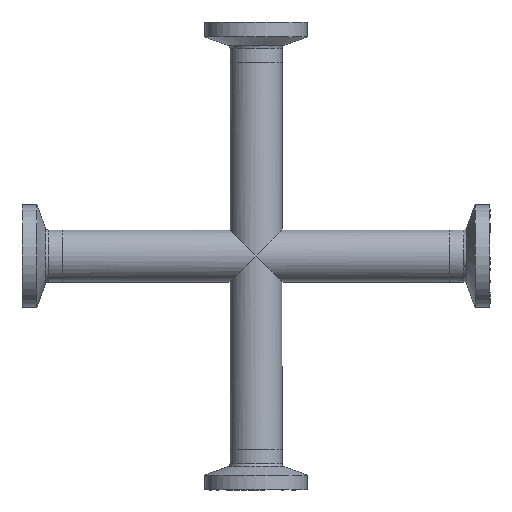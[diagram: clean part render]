
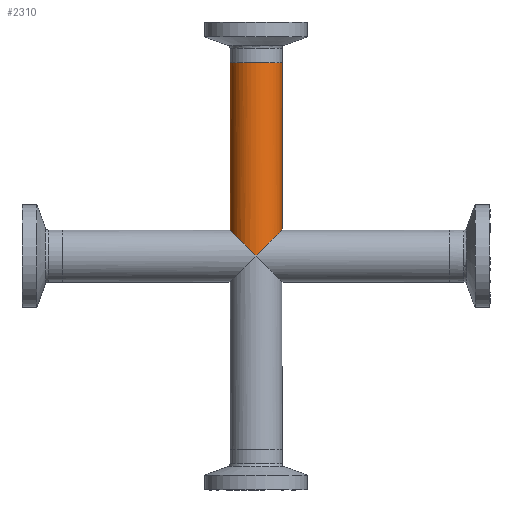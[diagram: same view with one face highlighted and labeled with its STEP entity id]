
A CAD part, front view. The second image highlights one B-rep face of the part: STEP entity #2310.
In plain terms, the highlighted cylindrical face has radius 6.35 mm (diameter 12.7 mm), a partial arc.
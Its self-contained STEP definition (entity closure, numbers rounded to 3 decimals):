
#172 = EDGE_CURVE ( 'NONE', #577, #3190, #1362, .T. ) ;
#229 = CARTESIAN_POINT ( 'NONE',  ( 0., -6.35, 0. ) ) ;
#276 = FACE_OUTER_BOUND ( 'NONE', #2575, .T. ) ;
#369 = AXIS2_PLACEMENT_3D ( 'NONE', #3342, #3371, #3397 ) ;
#577 = VERTEX_POINT ( 'NONE', #3188 ) ;
#611 = VECTOR ( 'NONE', #649, 1000. ) ;
#614 = CARTESIAN_POINT ( 'NONE',  ( -6.35, 0., -47.15 ) ) ;
#629 = CARTESIAN_POINT ( 'NONE',  ( 0., -6.35, 0. ) ) ;
#649 = DIRECTION ( 'NONE',  ( 0., 0., 1. ) ) ;
#669 =( BOUNDED_CURVE ( )  B_SPLINE_CURVE ( 3, ( #629, #2306, #2880, #1186 ),
 .UNSPECIFIED., .F., .F. ) 
 B_SPLINE_CURVE_WITH_KNOTS ( ( 4, 4 ),
 ( 1.571, 3.142 ),
 .UNSPECIFIED. ) 
 CURVE ( )  GEOMETRIC_REPRESENTATION_ITEM ( )  RATIONAL_B_SPLINE_CURVE ( ( 1., 0.805, 0.805, 1. ) ) 
 REPRESENTATION_ITEM ( '' )  );
#770 = DIRECTION ( 'NONE',  ( 0., 0., 1. ) ) ;
#805 = EDGE_CURVE ( 'NONE', #1112, #3190, #1265, .T. ) ;
#826 = DIRECTION ( 'NONE',  ( 0., 0., 1. ) ) ;
#910 = CYLINDRICAL_SURFACE ( 'NONE', #1188, 6.35 ) ;
#1112 = VERTEX_POINT ( 'NONE', #1570 ) ;
#1138 = CARTESIAN_POINT ( 'NONE',  ( 6.35, 0., 6.35 ) ) ;
#1147 = VERTEX_POINT ( 'NONE', #229 ) ;
#1186 = CARTESIAN_POINT ( 'NONE',  ( -6.35, 0., 6.35 ) ) ;
#1188 = AXIS2_PLACEMENT_3D ( 'NONE', #3609, #826, #2516 ) ;
#1265 = LINE ( 'NONE', #614, #611 ) ;
#1362 = CIRCLE ( 'NONE', #369, 6.35 ) ;
#1407 = ORIENTED_EDGE ( 'NONE', *, *, #3249, .F. ) ;
#1505 = EDGE_CURVE ( 'NONE', #2539, #577, #2507, .T. ) ;
#1570 = CARTESIAN_POINT ( 'NONE',  ( -6.35, 0., 6.35 ) ) ;
#1728 =( BOUNDED_CURVE ( )  B_SPLINE_CURVE ( 3, ( #1792, #3254, #2921, #3582 ),
 .UNSPECIFIED., .F., .F. ) 
 B_SPLINE_CURVE_WITH_KNOTS ( ( 4, 4 ),
 ( 0., 1.571 ),
 .UNSPECIFIED. ) 
 CURVE ( )  GEOMETRIC_REPRESENTATION_ITEM ( )  RATIONAL_B_SPLINE_CURVE ( ( 1., 0.805, 0.805, 1. ) ) 
 REPRESENTATION_ITEM ( '' )  );
#1792 = CARTESIAN_POINT ( 'NONE',  ( 6.35, 0., 6.35 ) ) ;
#1852 = EDGE_CURVE ( 'NONE', #2539, #1147, #1728, .T. ) ;
#2000 = CARTESIAN_POINT ( 'NONE',  ( -6.35, 0., 47.15 ) ) ;
#2297 = ORIENTED_EDGE ( 'NONE', *, *, #1505, .T. ) ;
#2306 = CARTESIAN_POINT ( 'NONE',  ( -3.72, -6.35, 3.72 ) ) ;
#2310 = ADVANCED_FACE ( 'NONE', ( #276 ), #910, .T. ) ;
#2351 = ORIENTED_EDGE ( 'NONE', *, *, #1852, .F. ) ;
#2507 = LINE ( 'NONE', #3295, #3078 ) ;
#2516 = DIRECTION ( 'NONE',  ( 1., 0., 0. ) ) ;
#2539 = VERTEX_POINT ( 'NONE', #1138 ) ;
#2575 = EDGE_LOOP ( 'NONE', ( #3204, #1407, #2351, #2297, #3211 ) ) ;
#2880 = CARTESIAN_POINT ( 'NONE',  ( -6.35, -3.72, 6.35 ) ) ;
#2921 = CARTESIAN_POINT ( 'NONE',  ( 3.72, -6.35, 3.72 ) ) ;
#3078 = VECTOR ( 'NONE', #770, 1000. ) ;
#3188 = CARTESIAN_POINT ( 'NONE',  ( 6.35, 0., 47.15 ) ) ;
#3190 = VERTEX_POINT ( 'NONE', #2000 ) ;
#3204 = ORIENTED_EDGE ( 'NONE', *, *, #805, .F. ) ;
#3211 = ORIENTED_EDGE ( 'NONE', *, *, #172, .T. ) ;
#3249 = EDGE_CURVE ( 'NONE', #1147, #1112, #669, .T. ) ;
#3254 = CARTESIAN_POINT ( 'NONE',  ( 6.35, -3.72, 6.35 ) ) ;
#3295 = CARTESIAN_POINT ( 'NONE',  ( 6.35, 0., -47.15 ) ) ;
#3342 = CARTESIAN_POINT ( 'NONE',  ( 0., 0., 47.15 ) ) ;
#3371 = DIRECTION ( 'NONE',  ( 0., 0., -1. ) ) ;
#3397 = DIRECTION ( 'NONE',  ( 1., 0., 0. ) ) ;
#3582 = CARTESIAN_POINT ( 'NONE',  ( 0., -6.35, 0. ) ) ;
#3609 = CARTESIAN_POINT ( 'NONE',  ( 0., 0., -47.15 ) ) ;
